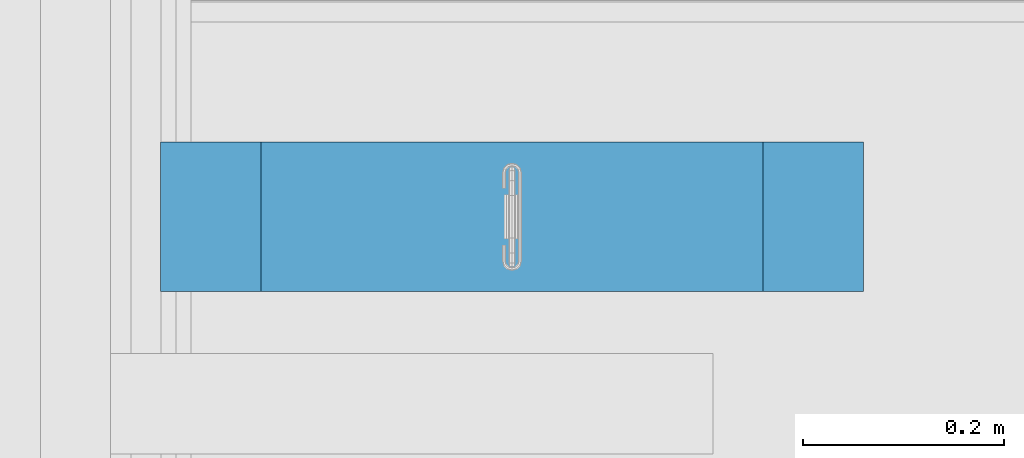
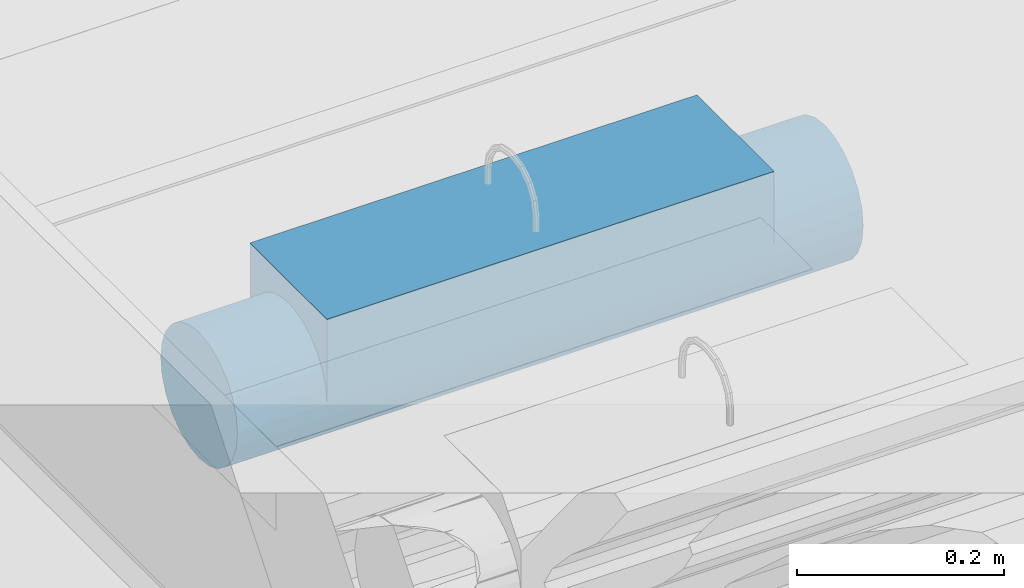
# One storey, part 142 of 230: 1 beam.
"""IFC4X3_ADD2 building model written with IfcOpenShell, lengths in millimetres."""

from ifc_helpers import new_model, si_unit, direction, origin_with_axes, place, context, subcontext, project, spatial, polygons, element, save


model = new_model("IFC4X3_ADD2")

# Units and contexts
model_context = context("Model", 3, precision=1e-05, world=origin_with_axes(), true_north=direction((0.0, 1.0)))
body_context = subcontext(model_context, "Body", "Model", "MODEL_VIEW")
ifc_project = project(units=[si_unit("LENGTHUNIT", "METRE", prefix="MILLI"), si_unit("AREAUNIT", "SQUARE_METRE"), si_unit("VOLUMEUNIT", "CUBIC_METRE"), si_unit("PLANEANGLEUNIT", "RADIAN"), si_unit("TIMEUNIT", "SECOND"), si_unit("MASSUNIT", "GRAM")], contexts=[model_context])

# Site, building, storey
site_placement = place(None, origin_with_axes())
site = spatial("IfcSite", under=ifc_project, at=site_placement, Name="Site", CompositionType="ELEMENT")
building_placement = place(site_placement, origin_with_axes())
building = spatial("IfcBuilding", under=site, at=building_placement, Name="IFC Building Story")
storey_placement = place(building_placement, origin_with_axes())
storey = spatial("IfcBuildingStorey", under=building, at=storey_placement, Name="ETAGE 00 (0)", Elevation=0.0)

# Beam
beam_placement = place(storey_placement, origin_with_axes())
element("IfcBeam", 1, at=beam_placement, inside=storey, Name="ES44", ObjectType="500*149", context=body_context, shape_type="Tessellation", body=[
    polygons([(34265.6922247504, -1125.96122667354, 4119.282009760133), (34165.6922247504, -1126.334918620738, 4117.829005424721), (34265.6922247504, -1128.499752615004, 4099.999990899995), (34265.6922247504, -1118.518645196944, 4137.249990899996), (34165.6922247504, -1119.966227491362, 4134.621865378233), (34165.6922247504, -1096.320577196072, 4161.312288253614), (34265.6922247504, -1106.679207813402, 4152.679446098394), (34265.6922247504, -1091.249752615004, 4164.518883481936), (34165.6922247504, -1080.417817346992, 4169.658700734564), (34265.6922247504, -1073.281771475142, 4171.961464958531), (34165.6922247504, -1109.763804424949, 4149.402627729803), (34165.6922247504, -1128.499752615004, 4099.999987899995), (34165.6922247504, -1062.979735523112, 4173.956801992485), (34265.6922247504, -1053.999752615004, 4174.499990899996), (34165.6922247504, -1045.019769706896, 4173.956801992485), (34265.6922247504, -1034.717733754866, 4171.961464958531), (34265.6922247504, -1016.749752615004, 4164.518883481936), (34165.6922247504, -1027.581687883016, 4169.658700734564), (34265.6922247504, -989.480860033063, 4137.249990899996), (34265.6922247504, -982.0382785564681, 4119.282009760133), (34165.6922247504, -988.0332777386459, 4134.621865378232), (34165.6922247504, -998.235700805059, 4149.402627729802), (34265.6922247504, -1001.320297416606, 4152.679446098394), (34165.6922247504, -1011.678928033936, 4161.312288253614), (34165.6922247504, -981.66458660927, 4117.82900542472), (34265.6922247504, -979.499752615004, 4099.999990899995), (34165.6922247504, -979.499752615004, 4099.999987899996), (33665.6922247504, -979.499752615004, 4199.999987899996), (33665.6922247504, -1128.499752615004, 4199.999987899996), (34165.6922247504, -1128.499752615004, 4199.999987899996), (34165.6922247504, -979.499752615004, 4199.999987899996), (33665.6922247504, -979.499752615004, 4099.999987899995), (33665.6922247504, -981.66458660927, 4117.82900542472), (33665.6922247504, -988.0332777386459, 4134.621865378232), (33665.6922247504, -998.235700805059, 4149.402627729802), (33665.6922247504, -1011.678928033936, 4161.312288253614), (33665.6922247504, -1027.581687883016, 4169.658700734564), (33665.6922247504, -1045.019769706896, 4173.956801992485), (33665.6922247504, -1062.979735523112, 4173.956801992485), (33665.6922247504, -1080.417817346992, 4169.658700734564), (33665.6922247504, -1096.320577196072, 4161.312288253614), (33665.6922247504, -1109.763804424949, 4149.402627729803), (33665.6922247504, -1119.966227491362, 4134.621865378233), (33665.6922247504, -1126.334918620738, 4117.829005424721), (33665.6922247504, -1128.499752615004, 4099.999987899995), (33565.6922247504, -979.499752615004, 4099.999990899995), (33565.6922247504, -982.0382785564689, 4080.717972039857), (33565.6922247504, -989.480860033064, 4062.749990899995), (33565.6922247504, -1001.320297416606, 4047.320535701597), (33565.6922247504, -1016.749752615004, 4035.481098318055), (33565.6922247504, -1034.717733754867, 4028.03851684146), (33565.6922247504, -1053.999752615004, 4025.499990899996), (33565.6922247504, -1073.281771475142, 4028.03851684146), (33565.6922247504, -1091.249752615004, 4035.481098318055), (33565.6922247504, -1106.679207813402, 4047.320535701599), (33565.6922247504, -1118.518645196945, 4062.749990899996), (33565.6922247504, -1125.96122667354, 4080.717972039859), (33565.6922247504, -1128.499752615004, 4099.999990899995), (33565.6922247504, -1125.96122667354, 4119.282009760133), (33565.6922247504, -1118.518645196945, 4137.249990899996), (33565.6922247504, -1106.679207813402, 4152.679446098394), (33565.6922247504, -1091.249752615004, 4164.518883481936), (33565.6922247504, -1073.281771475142, 4171.961464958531), (33565.6922247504, -1053.999752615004, 4174.499990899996), (33565.6922247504, -1034.717733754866, 4171.961464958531), (33565.6922247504, -1016.749752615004, 4164.518883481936), (33565.6922247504, -1001.320297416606, 4152.679446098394), (33565.6922247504, -989.480860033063, 4137.249990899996), (33565.6922247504, -982.0382785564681, 4119.282009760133), (34265.6922247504, -1125.96122667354, 4080.717972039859), (34265.6922247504, -1118.518645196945, 4062.749990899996), (34265.6922247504, -1106.679207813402, 4047.320535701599), (34265.6922247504, -1091.249752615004, 4035.481098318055), (34265.6922247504, -1073.281771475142, 4028.03851684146), (34265.6922247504, -1053.999752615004, 4025.499990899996), (34265.6922247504, -1034.717733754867, 4028.03851684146), (34265.6922247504, -1016.749752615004, 4035.481098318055), (34265.6922247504, -1001.320297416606, 4047.320535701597), (34265.6922247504, -989.480860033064, 4062.749990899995), (34265.6922247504, -982.0382785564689, 4080.717972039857), (33915.6922247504, -985.1707274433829, 4071.490075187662), (33915.6922247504, -1025.48983690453, 4031.170965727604), (33915.6922247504, -1008.64702615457, 4040.89516704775), (33915.6922247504, -994.8949287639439, 4054.647264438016), (33915.6922247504, -1044.275551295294, 4026.137348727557), (33915.6922247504, -980.683099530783, 4086.774319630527), (33915.6922247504, -1063.723953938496, 4026.137348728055), (33915.6922247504, -1082.509668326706, 4031.170965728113), (33915.6922247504, -1127.316405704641, 4086.774319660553), (33915.6922247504, -1099.352479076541, 4040.895167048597), (33915.6922247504, -1113.10457646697, 4054.647264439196), (33915.6922247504, -1122.828777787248, 4071.490075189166)], [[[1, 2, 3]], [[4, 5, 1]], [[6, 7, 8]], [[9, 8, 10]], [[7, 11, 4]], [[1, 5, 2]], [[2, 12, 3]], [[6, 11, 7]], [[9, 6, 8]], [[10, 13, 9]], [[11, 5, 4]], [[10, 14, 13]], [[15, 14, 16]], [[17, 18, 16]], [[19, 20, 21]], [[22, 23, 19]], [[24, 17, 23]], [[25, 20, 26]], [[16, 18, 15]], [[17, 24, 18]], [[23, 22, 24]], [[19, 21, 22]], [[25, 21, 20]], [[26, 27, 25]], [[14, 15, 13]], [[28, 29, 30, 31]], [[44, 45, 29]], [[29, 43, 44]], [[29, 42, 43]], [[29, 41, 42]], [[29, 40, 41]], [[29, 39, 40]], [[29, 28, 38]], [[29, 38, 39]], [[28, 37, 38]], [[28, 36, 37]], [[28, 35, 36]], [[28, 34, 35]], [[28, 33, 34]], [[28, 32, 33]], [[30, 29, 45, 12]], [[25, 27, 31]], [[31, 21, 25]], [[31, 22, 21]], [[31, 24, 22]], [[31, 18, 24]], [[31, 15, 18]], [[31, 30, 13]], [[31, 13, 15]], [[30, 9, 13]], [[30, 6, 9]], [[30, 11, 6]], [[30, 5, 11]], [[30, 2, 5]], [[30, 12, 2]], [[28, 31, 27, 32]], [[46, 47, 48]], [[46, 48, 49]], [[46, 49, 50]], [[46, 50, 51]], [[46, 51, 52]], [[46, 52, 53]], [[46, 53, 54]], [[46, 54, 55]], [[46, 55, 56]], [[46, 56, 57]], [[46, 57, 58]], [[46, 58, 59]], [[46, 59, 60]], [[46, 60, 61]], [[46, 61, 62]], [[46, 62, 63]], [[46, 63, 64]], [[46, 64, 65]], [[46, 65, 66]], [[46, 66, 67]], [[46, 67, 68]], [[46, 68, 69]], [[70, 71, 72]], [[70, 72, 73]], [[70, 73, 74]], [[70, 74, 75]], [[70, 75, 76]], [[70, 76, 77]], [[70, 77, 78]], [[70, 78, 79]], [[70, 79, 80]], [[70, 80, 26]], [[70, 26, 20]], [[70, 20, 19]], [[70, 19, 23]], [[70, 23, 17]], [[70, 17, 16]], [[70, 16, 14]], [[70, 14, 10]], [[70, 10, 8]], [[70, 8, 7]], [[70, 7, 4]], [[70, 4, 1]], [[70, 1, 3]], [[43, 59, 44]], [[42, 60, 43]], [[40, 62, 41]], [[42, 41, 61]], [[63, 40, 39]], [[44, 58, 45]], [[44, 59, 58]], [[60, 42, 61]], [[41, 62, 61]], [[59, 43, 60]], [[40, 63, 62]], [[39, 64, 63]], [[37, 36, 66]], [[38, 37, 65]], [[35, 34, 68]], [[33, 32, 46]], [[34, 33, 69]], [[36, 35, 67]], [[37, 66, 65]], [[65, 64, 38]], [[66, 36, 67]], [[35, 68, 67]], [[69, 68, 34]], [[69, 33, 46]], [[38, 64, 39]], [[27, 26, 80]], [[79, 81, 80]], [[77, 76, 82]], [[83, 78, 77]], [[84, 79, 78]], [[85, 76, 75]], [[27, 86, 32]], [[86, 81, 47]], [[84, 83, 49]], [[47, 46, 32]], [[81, 86, 80]], [[83, 77, 82]], [[81, 84, 48]], [[48, 47, 81]], [[82, 85, 51]], [[49, 48, 84]], [[49, 83, 50]], [[85, 75, 87]], [[51, 50, 82]], [[84, 78, 83]], [[52, 51, 85]], [[83, 82, 50]], [[73, 88, 74]], [[12, 89, 70]], [[27, 80, 86]], [[72, 90, 73]], [[70, 3, 12]], [[87, 52, 85]], [[72, 71, 91]], [[70, 92, 71]], [[82, 76, 85]], [[88, 87, 74]], [[32, 86, 47]], [[89, 12, 45]], [[87, 88, 53]], [[88, 54, 53]], [[88, 90, 54]], [[54, 90, 55]], [[53, 52, 87]], [[90, 72, 91]], [[57, 56, 92]], [[55, 91, 56]], [[92, 70, 89]], [[58, 57, 45]], [[81, 79, 84]], [[90, 91, 55]], [[57, 92, 89]], [[91, 71, 92]], [[91, 92, 56]], [[87, 75, 74]], [[45, 57, 89]], [[88, 73, 90]]]),
])

save(model, "model.ifc")
